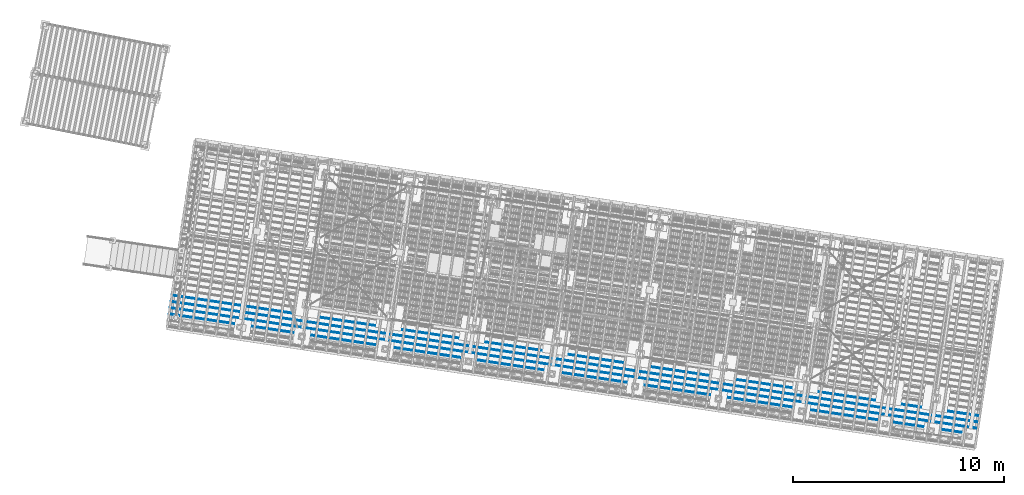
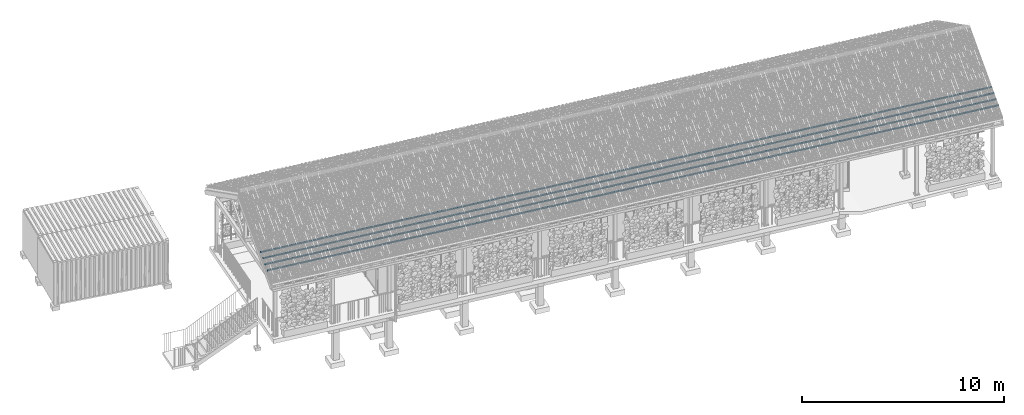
# One storey, part 68 of 131: 4 members, 1 element without a shape of its own.
"""IFC4 building model written with IfcOpenShell, lengths in metres."""

from ifc_helpers import new_model, si_unit, direction, frame, origin_with_axes, place, context, subcontext, project, spatial, rectangle, extrude, material, material_profile, profile_set, profile_usage, type_object, element, aggregate, save


model = new_model("IFC4")

# Units and contexts
model_context = context("Model", 3, precision=1e-05, world=origin_with_axes(), true_north=direction((0.0, 1.0)))
body_context = subcontext(model_context, "Body", "Model", "MODEL_VIEW")
ifc_project = project(units=[si_unit("VOLUMEUNIT", "CUBIC_METRE"), si_unit("LENGTHUNIT", "METRE"), si_unit("AREAUNIT", "SQUARE_METRE")], contexts=[model_context])

# Site, building, storey
site_placement = place(None, origin_with_axes())
site = spatial("IfcSite", under=ifc_project, at=site_placement, Name="Lares · Rua das Mercês · artigo 4771")
building_placement = place(site_placement, frame((15.0, 9.7, 14.65), z_axis=(0.0, 0.0, 1.0), x_axis=(0.989015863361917, -0.147809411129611, 0.0)))
building = spatial("IfcBuilding", under=site, at=building_placement, Name="Casa Sobreposta")
storey_placement = place(building_placement, origin_with_axes())
storey = spatial("IfcBuildingStorey", under=building, at=storey_placement, Name="00 · Habitação e estacionamento", Elevation=14.65)

# Roof, members
ifc_material = material(Name="Madeira / Bauholz", Category="wood")
roof_placement = place(storey_placement, origin_with_axes())
roof = element("IfcRoof", 1, at=roof_placement, inside=storey, material=ifc_material, Name="Cobertura de telha · duas águas 30 graus", PredefinedType="GABLE_ROOF")
ifc_material_profile = material_profile(ifc_material, rectangle(XDim=0.045, YDim=0.06))
ifc_profile_set = profile_set([ifc_material_profile], Name="TIMBER0.045x0.060")
ifc_profile_usage_1 = profile_usage(ifc_profile_set)
member_type = type_object("IfcMemberType", Name="TIMBER0.045x0.060 / timber", PredefinedType="NOTDEFINED", material=ifc_profile_set)
member_1_placement = place(roof_placement, frame((-6.4, -1.3, 3.88041016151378), z_axis=(1.0, 0.0, 0.0), x_axis=(0.0, -1.0, 0.0)))
member_1 = element("IfcMember", 2, at=member_1_placement, type_object=member_type, material=ifc_profile_usage_1, Name="Cobertura · ripa ventilada", context=body_context, shape_type="SweptSolid", body=[
    extrude(rectangle(XDim=0.045, YDim=0.06), origin_with_axes(), (0.0, 0.0, 1.0), 38.8),
])
ifc_profile_usage_2 = profile_usage(ifc_profile_set)
member_2_placement = place(roof_placement, frame((-6.4, -1.0, 4.05361524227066), z_axis=(1.0, 0.0, 0.0), x_axis=(0.0, -1.0, 0.0)))
member_2 = element("IfcMember", 3, at=member_2_placement, type_object=member_type, material=ifc_profile_usage_2, Name="Cobertura · ripa ventilada", context=body_context, shape_type="SweptSolid", body=[
    extrude(rectangle(XDim=0.045, YDim=0.06), origin_with_axes(), (0.0, 0.0, 1.0), 38.8),
])
ifc_profile_usage_3 = profile_usage(ifc_profile_set)
member_3_placement = place(roof_placement, frame((-6.4, -0.7, 4.22682032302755), z_axis=(1.0, 0.0, 0.0), x_axis=(0.0, -1.0, 0.0)))
member_3 = element("IfcMember", 4, at=member_3_placement, type_object=member_type, material=ifc_profile_usage_3, Name="Cobertura · ripa ventilada", context=body_context, shape_type="SweptSolid", body=[
    extrude(rectangle(XDim=0.045, YDim=0.06), origin_with_axes(), (0.0, 0.0, 1.0), 38.8),
])
ifc_profile_usage_4 = profile_usage(ifc_profile_set)
member_4_placement = place(roof_placement, frame((-6.4, -0.4, 4.40002540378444), z_axis=(1.0, 0.0, 0.0), x_axis=(0.0, -1.0, 0.0)))
member_4 = element("IfcMember", 5, at=member_4_placement, type_object=member_type, material=ifc_profile_usage_4, Name="Cobertura · ripa ventilada", context=body_context, shape_type="SweptSolid", body=[
    extrude(rectangle(XDim=0.045, YDim=0.06), origin_with_axes(), (0.0, 0.0, 1.0), 38.8),
])
aggregate(roof, [member_1, member_2, member_3, member_4])

save(model, "model.ifc")
